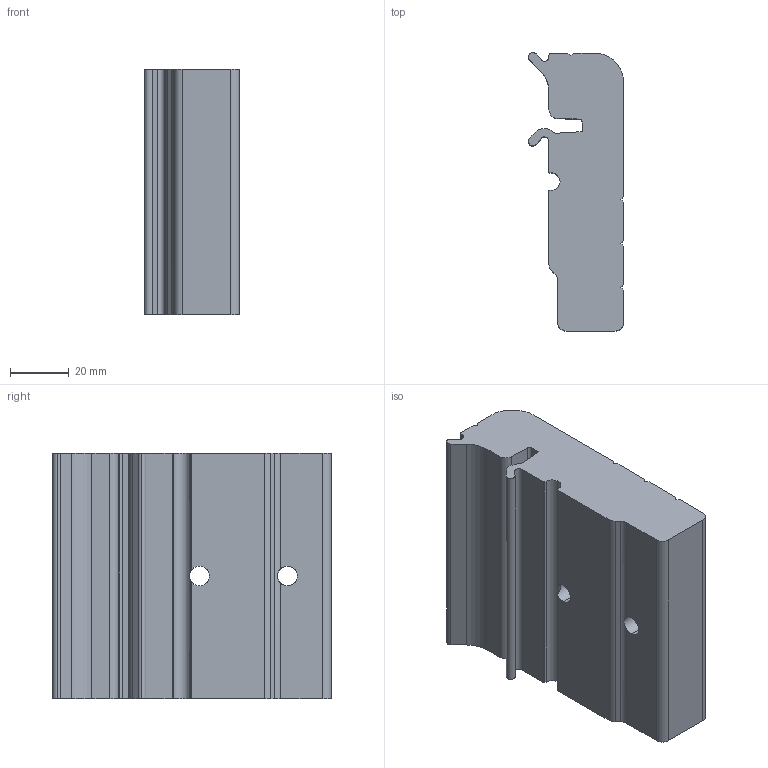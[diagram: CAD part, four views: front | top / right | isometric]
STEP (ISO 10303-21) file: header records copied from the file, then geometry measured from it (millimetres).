
FILE_DESCRIPTION (( 'STEP AP214' ), '1' );
FILE_NAME ('R2 SL32PL para.step', '2017-04-05T08:05:40', ( '' ), ( '' ), 'SwSTEP 2.0', 'SolidWorks 2015', '' );
FILE_SCHEMA (( 'AUTOMOTIVE_DESIGN' ));
Length unit declared in the file: millimetre
Products named in the file (1): R2 SL32PL para
Bounding box: 32.5 x 95.18 x 84 mm (x, y, z)
Volume: 191835.3 mm3; surface area: 30131.3 mm2
Topology: 1 solids, 1 shells, 66 faces, 204 edges, 134 vertices
Faces by surface type: plane 39, cylinder 27
Entity records: 2447 total; most frequent: CARTESIAN_POINT 523, ORIENTED_EDGE 408, DIRECTION 370, EDGE_CURVE 204, VERTEX_POINT 134, VECTOR 132, LINE 132, AXIS2_PLACEMENT_3D 119
